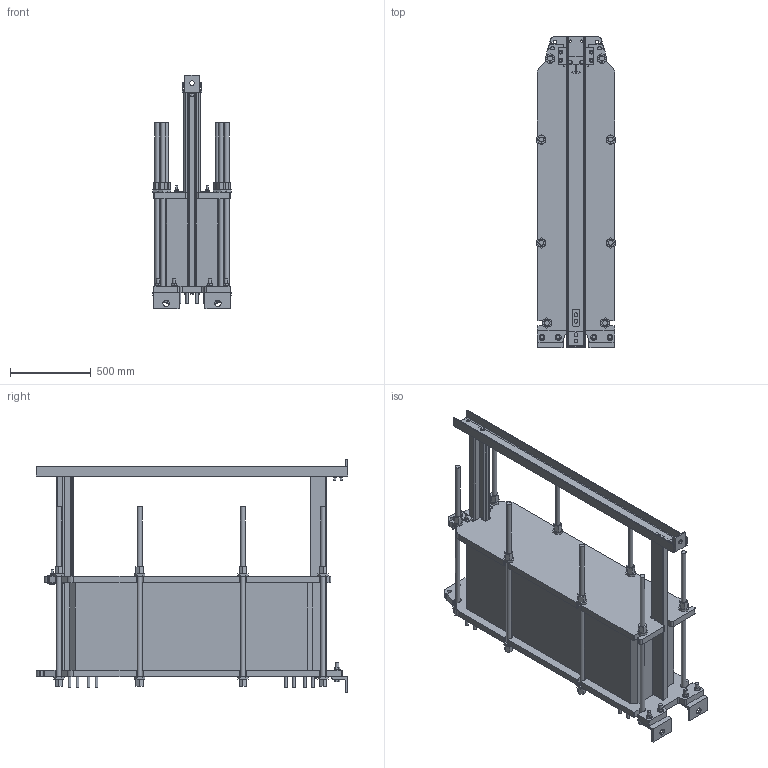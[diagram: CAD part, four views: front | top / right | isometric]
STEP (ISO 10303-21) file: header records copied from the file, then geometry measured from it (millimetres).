
FILE_DESCRIPTION((''),'2;1');
FILE_NAME('c:\temp\TL10_FG_LC1200_AL_01_REV0.stp','2009-06-24T11:58:14',('CNSHFLU'),(''),'Autodesk Inventor 2008','Autodesk Inventor 2008','');
FILE_SCHEMA(('AUTOMOTIVE_DESIGN { 1 0 10303 214 1 1 1 1 }'));
Length unit declared in the file: millimetre
Products named in the file (1): TL10
Bounding box: 483 x 1923 x 1445 mm (x, y, z)
Volume: 366603176 mm3; surface area: 8820783.6 mm2
Topology: 1 solids, 5 shells, 1389 faces, 3632 edges, 2404 vertices
Faces by surface type: plane 750, cylinder 350, bspline 287, cone 2
Full cylindrical faces by diameter (mm): 3.75 x4, 13 x8, 14 x6, 14.2 x2, 16 x34, 22 x9, 24 x10, 28 x1, 30 x8, 37 x4, 40 x2, 60 x1, 100 x4, 110 x4
Entity records: 42421 total; most frequent: CARTESIAN_POINT 8556, ORIENTED_EDGE 6970, DIRECTION 6489, EDGE_CURVE 3485, VECTOR 2687, LINE 2687, VERTEX_POINT 2386, AXIS2_PLACEMENT_3D 1901
